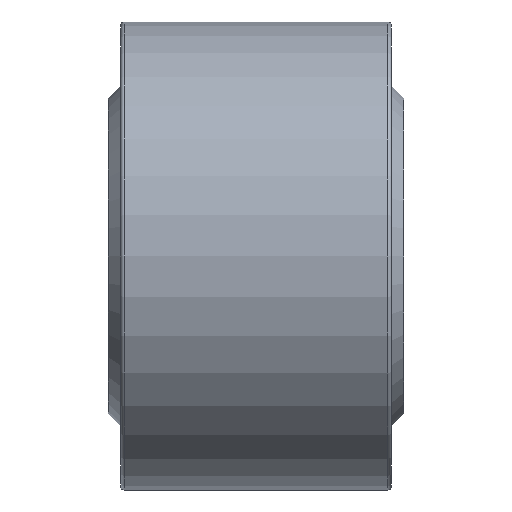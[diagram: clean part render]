
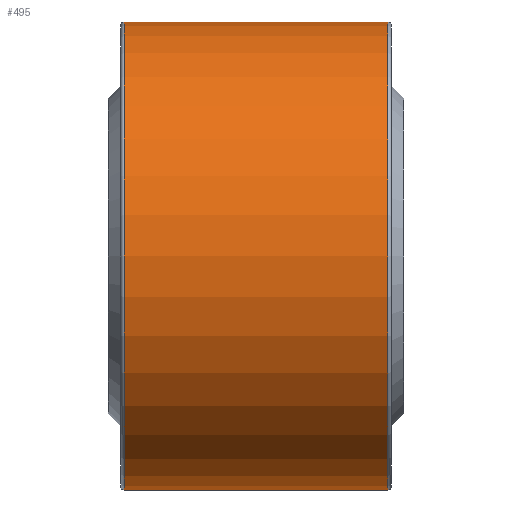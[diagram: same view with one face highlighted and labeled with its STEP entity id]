
A CAD part, front view. The second image highlights one B-rep face of the part: STEP entity #495.
In plain terms, the highlighted cylindrical face has radius 9.5 mm (diameter 19 mm), a full revolution.
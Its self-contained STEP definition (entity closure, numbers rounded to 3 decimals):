
#133=CYLINDRICAL_SURFACE('',#543,9.5);
#149=FACE_BOUND('',#227,.T.);
#186=FACE_OUTER_BOUND('',#226,.T.);
#226=EDGE_LOOP('',(#416));
#227=EDGE_LOOP('',(#417));
#301=CIRCLE('',#542,9.5);
#302=CIRCLE('',#544,9.5);
#339=VERTEX_POINT('',#852);
#340=VERTEX_POINT('',#855);
#377=EDGE_CURVE('',#339,#339,#301,.T.);
#378=EDGE_CURVE('',#340,#340,#302,.T.);
#416=ORIENTED_EDGE('',*,*,#378,.F.);
#417=ORIENTED_EDGE('',*,*,#377,.F.);
#495=ADVANCED_FACE('',(#186,#149),#133,.T.);
#542=AXIS2_PLACEMENT_3D('',#853,#648,#649);
#543=AXIS2_PLACEMENT_3D('',#854,#650,#651);
#544=AXIS2_PLACEMENT_3D('',#856,#652,#653);
#648=DIRECTION('center_axis',(-1.,0.,0.));
#649=DIRECTION('ref_axis',(0.,-1.,0.));
#650=DIRECTION('center_axis',(1.,0.,0.));
#651=DIRECTION('ref_axis',(0.,1.,0.));
#652=DIRECTION('center_axis',(1.,0.,0.));
#653=DIRECTION('ref_axis',(0.,-1.,0.));
#852=CARTESIAN_POINT('',(-5.35,9.5,0.));
#853=CARTESIAN_POINT('Origin',(-5.35,0.,0.));
#854=CARTESIAN_POINT('Origin',(0.,0.,
0.));
#855=CARTESIAN_POINT('',(5.35,9.5,0.));
#856=CARTESIAN_POINT('Origin',(5.35,0.,0.));
